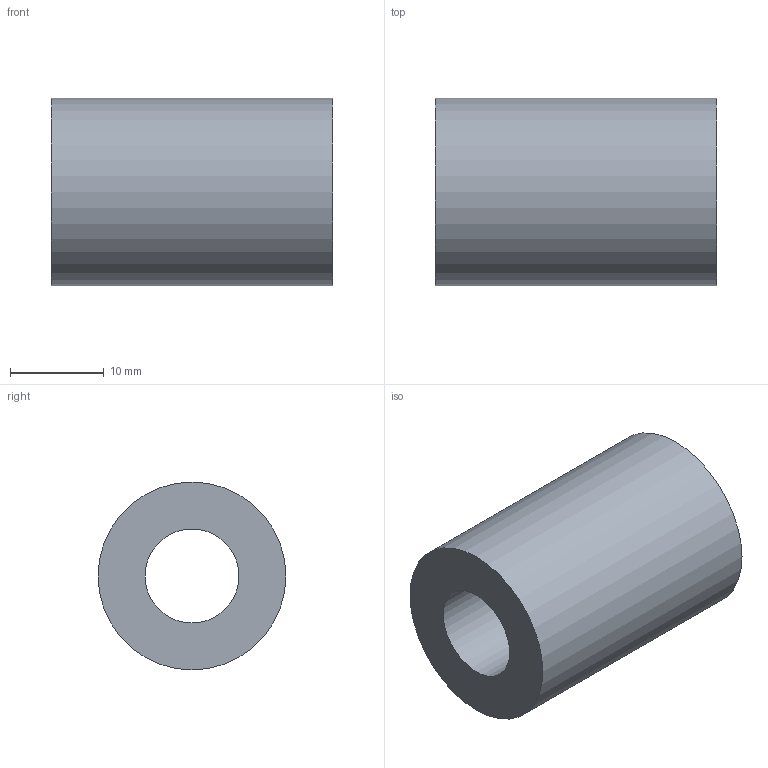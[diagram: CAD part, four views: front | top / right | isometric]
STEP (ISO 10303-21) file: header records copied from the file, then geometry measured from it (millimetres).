
FILE_DESCRIPTION(('FreeCAD Model'),'2;1');
FILE_NAME('Open CASCADE Shape Model','2025-10-11T09:52:31',(''),(''), 'Open CASCADE STEP processor 7.8','FreeCAD','Unknown');
FILE_SCHEMA(('AUTOMOTIVE_DESIGN { 1 0 10303 214 1 1 1 1 }'));
Length unit declared in the file: millimetre
Products named in the file (1): Body
Bounding box: 30 x 20 x 20 mm (x, y, z)
Volume: 7068.6 mm3; surface area: 3298.7 mm2
Topology: 1 solids, 1 shells, 4 faces, 6 edges, 4 vertices
Faces by surface type: cylinder 2, plane 2
Full cylindrical faces by diameter (mm): 10 x1, 20 x1
Entity records: 198 total; most frequent: DIRECTION 32, CARTESIAN_POINT 27, ORIENTED_EDGE 12, PCURVE 12, DEFINITIONAL_REPRESENTATION 12, LINE 10, VECTOR 10, AXIS2_PLACEMENT_3D 9
